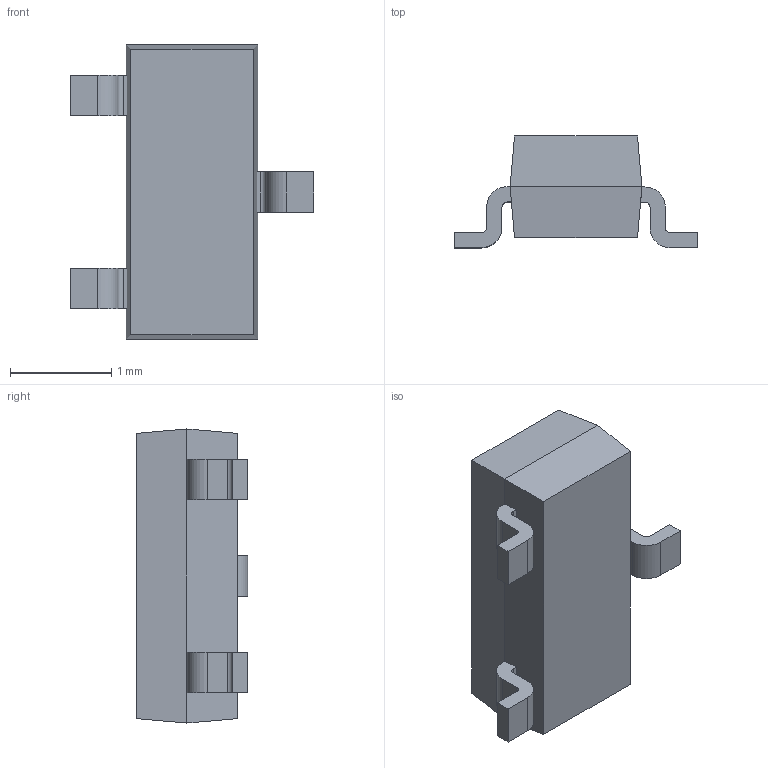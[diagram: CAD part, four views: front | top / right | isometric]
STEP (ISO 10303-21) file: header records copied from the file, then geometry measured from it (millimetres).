
FILE_DESCRIPTION (( 'STEP AP214' ), '1' );
FILE_NAME ('MMBTRC105SS.STEP', '2024-05-01T18:48:49', ( '' ), ( '' ), 'SwSTEP 2.0', 'SolidWorks 2021', '' );
FILE_SCHEMA (( 'AUTOMOTIVE_DESIGN' ));
Length unit declared in the file: millimetre
Products named in the file (1): MMBTRC105SS
Bounding box: 2.4 x 1.1 x 2.9 mm (x, y, z)
Volume: 3.8 mm3; surface area: 18.4 mm2
Topology: 4 solids, 4 shells, 52 faces, 128 edges, 84 vertices
Faces by surface type: plane 40, cylinder 12
Entity records: 1585 total; most frequent: CARTESIAN_POINT 265, DIRECTION 258, ORIENTED_EDGE 256, EDGE_CURVE 128, LINE 104, VECTOR 104, VERTEX_POINT 84, AXIS2_PLACEMENT_3D 77
